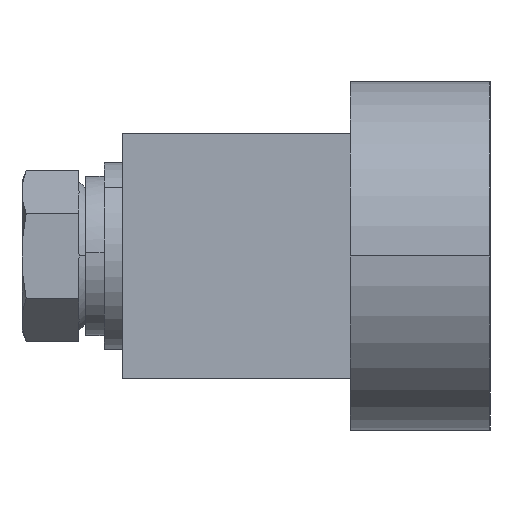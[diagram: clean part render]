
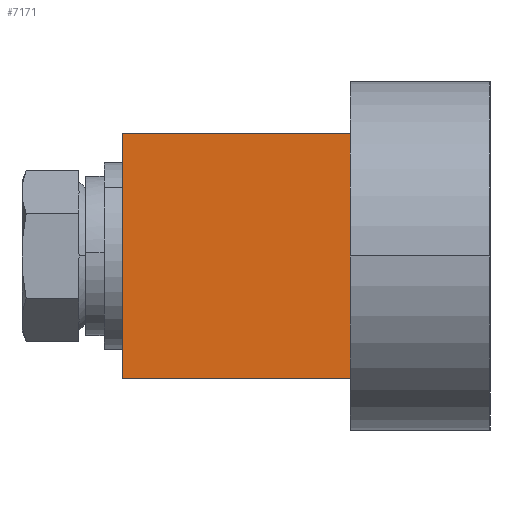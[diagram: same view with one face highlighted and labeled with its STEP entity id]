
A CAD part, left-side view. The second image highlights one B-rep face of the part: STEP entity #7171.
In plain terms, the highlighted planar face has unit normal (-1, 0, 0).
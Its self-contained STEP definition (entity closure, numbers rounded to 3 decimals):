
#272 = CARTESIAN_POINT ( 'NONE',  ( 0., 21., -19.5 ) ) ;
#845 = CARTESIAN_POINT ( 'NONE',  ( 0., 0., -19.5 ) ) ;
#1209 = LINE ( 'NONE', #272, #11522 ) ;
#1305 = AXIS2_PLACEMENT_3D ( 'NONE', #8478, #3039, #1991 ) ;
#1346 = CARTESIAN_POINT ( 'NONE',  ( 0., 21., 0. ) ) ;
#1513 = ORIENTED_EDGE ( 'NONE', *, *, #10258, .F. ) ;
#1932 = PLANE ( 'NONE',  #1305 ) ;
#1991 = DIRECTION ( 'NONE',  ( 0., 0., -1. ) ) ;
#2032 = EDGE_CURVE ( 'NONE', #5087, #8854, #6039, .T. ) ;
#2559 = CARTESIAN_POINT ( 'NONE',  ( 0., 0., 0. ) ) ;
#2749 = VECTOR ( 'NONE', #10880, 1000. ) ;
#3039 = DIRECTION ( 'NONE',  ( 1., 0., 0. ) ) ;
#3145 = ORIENTED_EDGE ( 'NONE', *, *, #6832, .T. ) ;
#3963 = VERTEX_POINT ( 'NONE', #2559 ) ;
#4100 = CARTESIAN_POINT ( 'NONE',  ( 0., 0., -19.5 ) ) ;
#4813 = EDGE_CURVE ( 'NONE', #11714, #3963, #9853, .T. ) ;
#5087 = VERTEX_POINT ( 'NONE', #6700 ) ;
#5738 = ORIENTED_EDGE ( 'NONE', *, *, #4813, .F. ) ;
#5752 = CARTESIAN_POINT ( 'NONE',  ( 0., 21., 0. ) ) ;
#6039 = LINE ( 'NONE', #6901, #2749 ) ;
#6065 = DIRECTION ( 'NONE',  ( 0., -1., 0. ) ) ;
#6349 = EDGE_LOOP ( 'NONE', ( #3145, #5738, #1513, #9839 ) ) ;
#6700 = CARTESIAN_POINT ( 'NONE',  ( 0., 21., -19.5 ) ) ;
#6832 = EDGE_CURVE ( 'NONE', #8854, #3963, #10225, .T. ) ;
#6901 = CARTESIAN_POINT ( 'NONE',  ( 0., 21., -19.5 ) ) ;
#7171 = ADVANCED_FACE ( 'NONE', ( #7380 ), #1932, .F. ) ;
#7380 = FACE_OUTER_BOUND ( 'NONE', #6349, .T. ) ;
#7759 = DIRECTION ( 'NONE',  ( 0., 0., 1. ) ) ;
#8269 = VECTOR ( 'NONE', #6065, 1000. ) ;
#8478 = CARTESIAN_POINT ( 'NONE',  ( 0., 21., -19.5 ) ) ;
#8854 = VERTEX_POINT ( 'NONE', #4100 ) ;
#9839 = ORIENTED_EDGE ( 'NONE', *, *, #2032, .T. ) ;
#9853 = LINE ( 'NONE', #1346, #8269 ) ;
#10225 = LINE ( 'NONE', #845, #11074 ) ;
#10258 = EDGE_CURVE ( 'NONE', #5087, #11714, #1209, .T. ) ;
#10352 = DIRECTION ( 'NONE',  ( 0., 0., 1. ) ) ;
#10880 = DIRECTION ( 'NONE',  ( 0., -1., 0. ) ) ;
#11074 = VECTOR ( 'NONE', #10352, 1000. ) ;
#11522 = VECTOR ( 'NONE', #7759, 1000. ) ;
#11714 = VERTEX_POINT ( 'NONE', #5752 ) ;
